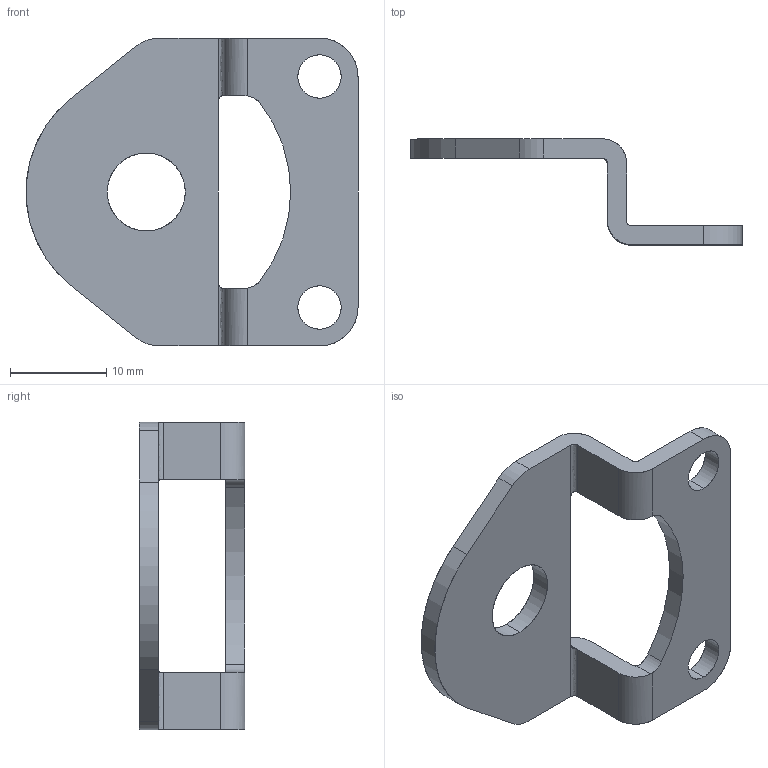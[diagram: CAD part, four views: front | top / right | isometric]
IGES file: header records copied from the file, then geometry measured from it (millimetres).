
Start section: SolidWorks IGES file using analytic representation for surfaces
Bounding box: 34.5 x 11 x 32 mm (x, y, z)
Surface area: 2186.3 mm2 (no closed solid volume)
Topology: 0 solids, 0 shells, 70 faces, 712 edges, 682 vertices
Faces by surface type: revolution 54, bspline 16
